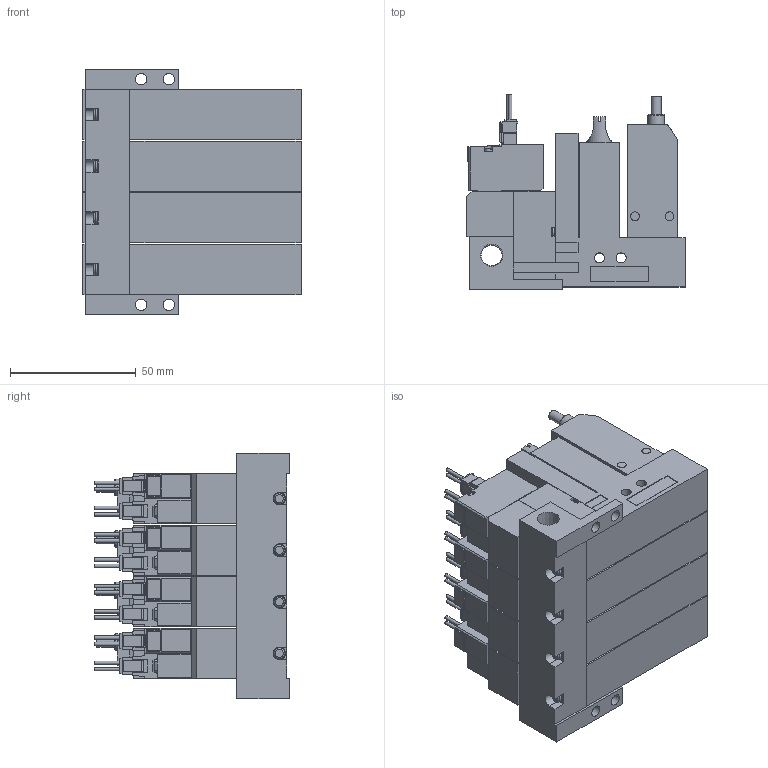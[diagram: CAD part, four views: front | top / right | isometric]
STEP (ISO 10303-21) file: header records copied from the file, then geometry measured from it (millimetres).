
FILE_DESCRIPTION(('STEP AP203'),'1');
FILE_NAME('ABS_ABPL5ALR404.stp','2025-02-18T23:31:01',(' '),(' '),'Spatial InterOp 3D',' ',' ');
FILE_SCHEMA(('CONFIG_CONTROL_DESIGN'));
Length unit declared in the file: millimetre
Products named in the file (5): BMC22M※※※※ABS_ABPL5ALR404; Solenoid valve A; Pressure sensor ABSL; Unit L; Base MR40R
Assembly tree (13 placements, depth 2):
  BMC22M※※※※ABS_ABPL5ALR404
    Solenoid valve A  x4
    Pressure sensor ABSL  x4
    Unit L  x4
    Base MR40R
Bounding box: 86.6 x 77.45 x 97.5 mm (x, y, z)
Volume: 362055.2 mm3; surface area: 100679.1 mm2
Topology: 13 solids, 13 shells, 1521 faces, 4075 edges, 2684 vertices
Faces by surface type: plane 1286, cylinder 189, cone 30, torus 16
Full cylindrical faces by diameter (mm): 1.4 x16, 2.5 x4, 3 x16, 3.5 x24, 3.6 x4, 4 x12, 4.134 x4, 4.5 x4, 5.2 x4, 6 x4, 6.5 x4, 6.6 x4, 8.279 x1
Entity records: 13740 total; most frequent: CARTESIAN_POINT 2576, DIRECTION 2186, ORIENTED_EDGE 2174, EDGE_CURVE 1087, LINE 894, VECTOR 894, VERTEX_POINT 756, AXIS2_PLACEMENT_3D 646
